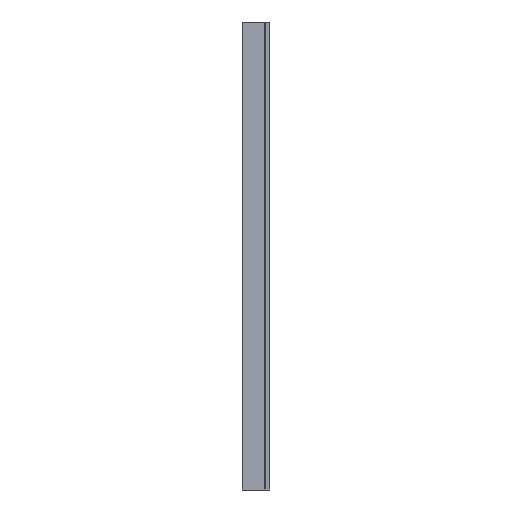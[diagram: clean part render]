
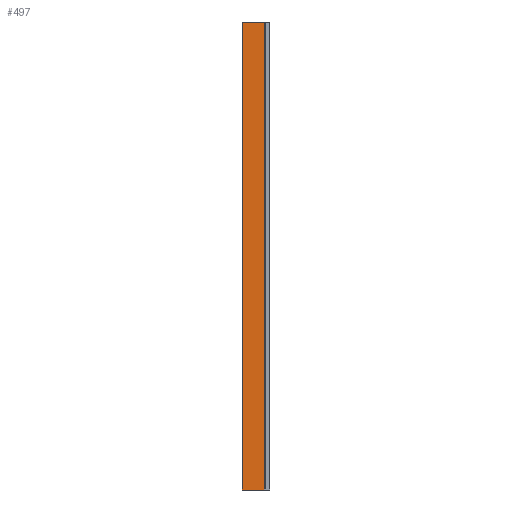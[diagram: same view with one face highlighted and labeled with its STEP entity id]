
A CAD part, front view. The second image highlights one B-rep face of the part: STEP entity #497.
In plain terms, the highlighted planar face has unit normal (0, -1, 0) as drawn and (0, 1, 0) by its records, which use the part's own axes.
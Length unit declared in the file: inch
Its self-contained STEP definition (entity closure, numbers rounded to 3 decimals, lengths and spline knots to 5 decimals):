
#4 = EDGE_CURVE ( 'NONE', #116, #464, #345, .T. ) ;
#9 = DIRECTION ( 'NONE',  ( 1., 0., 0. ) ) ;
#17 = ORIENTED_EDGE ( 'NONE', *, *, #544, .T. ) ;
#19 = LINE ( 'NONE', #301, #382 ) ;
#34 = CARTESIAN_POINT ( 'NONE',  ( 0.81946, -0.125, 72. ) ) ;
#35 = CARTESIAN_POINT ( 'NONE',  ( 0.78349, -0.125, 72. ) ) ;
#36 = FACE_OUTER_BOUND ( 'NONE', #227, .T. ) ;
#55 = CARTESIAN_POINT ( 'NONE',  ( 0.81946, -0.125, 72. ) ) ;
#56 = DIRECTION ( 'NONE',  ( 0., 0., 1. ) ) ;
#93 = CARTESIAN_POINT ( 'NONE',  ( 4.25224, -0.125, 0. ) ) ;
#116 = VERTEX_POINT ( 'NONE', #34 ) ;
#140 = EDGE_CURVE ( 'NONE', #642, #116, #572, .T. ) ;
#192 = VECTOR ( 'NONE', #9, 39.37008 ) ;
#205 = CARTESIAN_POINT ( 'NONE',  ( 4.25224, -0.125, 72. ) ) ;
#216 = ORIENTED_EDGE ( 'NONE', *, *, #4, .T. ) ;
#227 = EDGE_LOOP ( 'NONE', ( #216, #566, #17, #635 ) ) ;
#234 = CARTESIAN_POINT ( 'NONE',  ( 0.78349, -0.125, 72. ) ) ;
#241 = PLANE ( 'NONE',  #453 ) ;
#247 = DIRECTION ( 'NONE',  ( 0., 1., 0. ) ) ;
#248 = DIRECTION ( 'NONE',  ( 0., 0., 1. ) ) ;
#252 = VERTEX_POINT ( 'NONE', #93 ) ;
#261 = DIRECTION ( 'NONE',  ( -1., 0., 0. ) ) ;
#265 = VECTOR ( 'NONE', #56, 39.37008 ) ;
#268 = CARTESIAN_POINT ( 'NONE',  ( 0.78349, -0.125, 0. ) ) ;
#301 = CARTESIAN_POINT ( 'NONE',  ( 4.25224, -0.125, 72. ) ) ;
#311 = DIRECTION ( 'NONE',  ( 0., 0., -1. ) ) ;
#324 = CARTESIAN_POINT ( 'NONE',  ( 0.81946, -0.125, 0. ) ) ;
#335 = LINE ( 'NONE', #268, #659 ) ;
#345 = LINE ( 'NONE', #35, #192 ) ;
#382 = VECTOR ( 'NONE', #311, 39.37008 ) ;
#453 = AXIS2_PLACEMENT_3D ( 'NONE', #234, #247, #248 ) ;
#464 = VERTEX_POINT ( 'NONE', #205 ) ;
#497 = ADVANCED_FACE ( 'NONE', ( #36 ), #241, .T. ) ;
#544 = EDGE_CURVE ( 'NONE', #252, #642, #335, .T. ) ;
#566 = ORIENTED_EDGE ( 'NONE', *, *, #628, .T. ) ;
#572 = LINE ( 'NONE', #55, #265 ) ;
#628 = EDGE_CURVE ( 'NONE', #464, #252, #19, .T. ) ;
#635 = ORIENTED_EDGE ( 'NONE', *, *, #140, .T. ) ;
#642 = VERTEX_POINT ( 'NONE', #324 ) ;
#659 = VECTOR ( 'NONE', #261, 39.37008 ) ;
